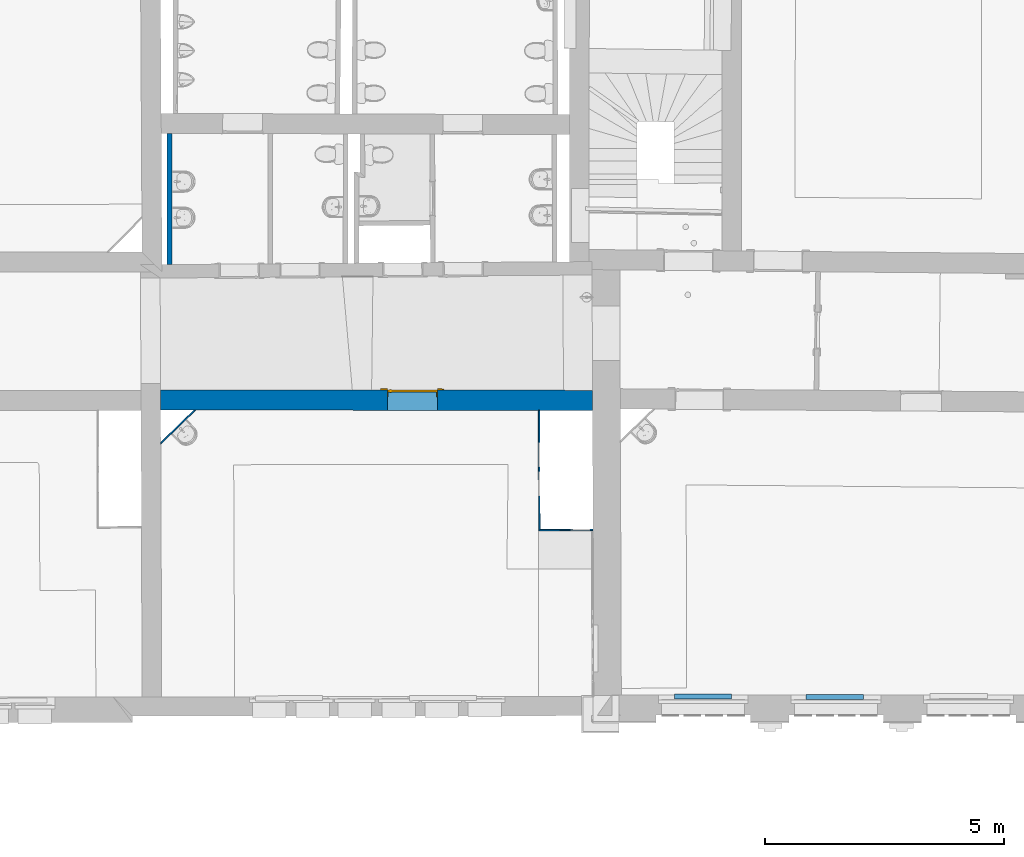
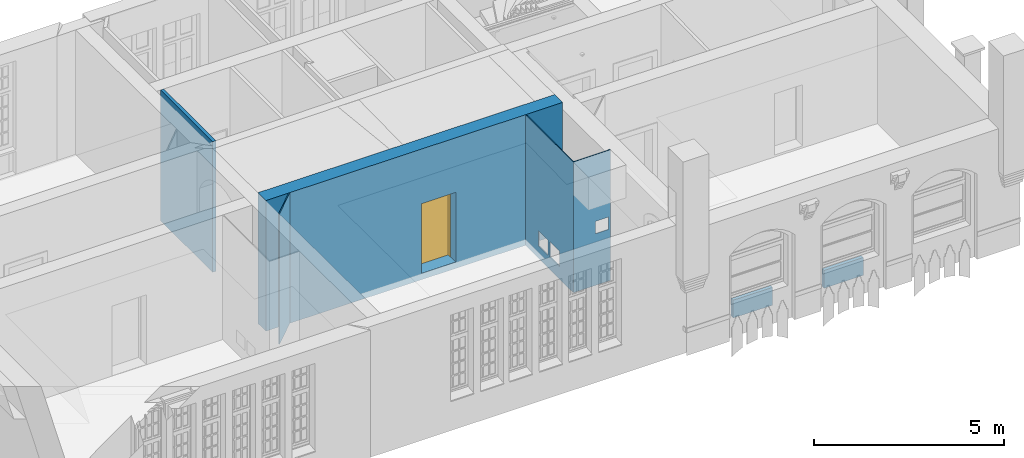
# One storey, part 27 of 90: 7 walls, 1 door, 4 openings.
"""IFC2X3 building model written with IfcOpenShell, lengths in metres."""

from ifc_helpers import new_model, entity, si_unit, converted_unit, derived_unit, money_unit, direction, frame, origin_with_axes, origin_2d_with_axis, place, context, subcontext, project, spatial, polyline, rectangle, outline, extrude, open_shell, faceted_brep, surface_model, source, transform, mapped, material, layer, layer_set, layer_usage, type_object, element, fill, save


model = new_model("IFC2X3")

# Units and contexts
model_context = context("Model", 3, precision=1e-05, world=origin_with_axes(), true_north=direction((0.0, 1.0)))
body_context = subcontext(model_context, "Body", "Model", "MODEL_VIEW")
ifc_project = project(units=[si_unit("LENGTHUNIT", "METRE"), si_unit("AREAUNIT", "SQUARE_METRE"), si_unit("VOLUMEUNIT", "CUBIC_METRE"), converted_unit("PLANEANGLEUNIT", "DEGREE", entity("IfcPlaneAngleMeasure", 0.0174532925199), si_unit("PLANEANGLEUNIT", "RADIAN"), dimensions=[0, 0, 0, 0, 0, 0, 0]), money_unit("EUR"), converted_unit("TIMEUNIT", "Year", entity("IfcTimeMeasure", 31556926.0), si_unit("TIMEUNIT", "SECOND"), dimensions=[0, 0, 1, 0, 0, 0, 0]), si_unit("MASSUNIT", "GRAM", prefix="KILO"), si_unit("THERMODYNAMICTEMPERATUREUNIT", "DEGREE_CELSIUS"), si_unit("LUMINOUSINTENSITYUNIT", "LUMEN"), si_unit("ENERGYUNIT", "JOULE", prefix="MEGA"), derived_unit("THERMALCONDUCTANCEUNIT", [(si_unit("POWERUNIT", "WATT"), 1), (si_unit("LENGTHUNIT", "METRE"), -1), (si_unit("THERMODYNAMICTEMPERATUREUNIT", "KELVIN"), -1)]), derived_unit("SPECIFICHEATCAPACITYUNIT", [(si_unit("ENERGYUNIT", "JOULE"), 1), (si_unit("MASSUNIT", "GRAM", prefix="KILO"), -1), (si_unit("THERMODYNAMICTEMPERATUREUNIT", "KELVIN"), -1)]), derived_unit("MASSDENSITYUNIT", [(si_unit("MASSUNIT", "GRAM", prefix="KILO"), 1), (si_unit("VOLUMEUNIT", "CUBIC_METRE"), -1)])], contexts=[model_context])

# Site, building, storey
site_placement = place(None, origin_with_axes())
site = spatial("IfcSite", under=ifc_project, at=site_placement, Name="Gelände", CompositionType="ELEMENT")
building_placement = place(site_placement, origin_with_axes())
building = spatial("IfcBuilding", under=site, at=building_placement, Name="Gebäude", CompositionType="ELEMENT")
storey_placement = place(building_placement, frame((0.0, 0.0, 3.7), z_axis=(0.0, 0.0, 1.0), x_axis=(1.0, 0.0, 0.0)))
storey = spatial("IfcBuildingStorey", under=building, at=storey_placement, Name="1.OBERGESCHOSS", CompositionType="ELEMENT", Elevation=3.7)

# Wall, opening, door
ifc_material_1 = material(Name="05_ALLGEMEIN - TRAGENDE BAUTEILE")
ifc_layer_1 = layer(ifc_material_1, 0.42, ventilated="UNKNOWN")
ifc_layer_set_1 = layer_set([ifc_layer_1], Name="05_ALLGEMEIN - TRAGENDE BAUTEILE 0.42")
ifc_layer_usage_1 = layer_usage(ifc_layer_set_1, "AXIS2", "POSITIVE", 0.0)
wall_type_1 = type_object("IfcWallType", Name="05_ALLGEMEIN - TRAGENDE BAUTEILE 420", PredefinedType="ELEMENTEDWALL")
wall_1_placement = place(storey_placement, frame((21.9675993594, 16.8118219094, -0.1), z_axis=(0.0, 0.0, 1.0), x_axis=(-0.9999998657, 0.00051826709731, 0.0)))
wall_1 = element("IfcWallStandardCase", 1, at=wall_1_placement, inside=storey, type_object=wall_type_1, material=ifc_layer_usage_1, Name="Wand-041", ObjectType="ELEMENTEDWALL", context=body_context, shape_type="SweptSolid", body=[
    extrude(outline(polyline([(0.0, 0.0), (9.02072101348, 0.0), (9.01890597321, 0.42), (-0.00167481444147, 0.42), (0.0, 0.0)])), origin_with_axes(), (0.0, 0.0, 1.0), 4.2),
])
opening_1_placement = place(wall_1_placement, frame((3.76149297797, 0.0, 0.206800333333), z_axis=(0.0, 0.0, 1.0), x_axis=(1.0, 0.0, 0.0)))
opening_1 = element("IfcOpeningElement", 2, at=opening_1_placement, cuts=wall_1, Name="Tür-022", context=body_context, shape_type="SweptSolid", body=[
    extrude(rectangle(XDim=1.03990335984, YDim=2.24001358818, at=origin_2d_with_axis()), frame((0.0, 0.42, 1.12000679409), z_axis=(0.0, -1.0, 0.0), x_axis=(-1.0, 0.0, 0.0)), (0.0, 0.0, 1.0), 1.26),
])
door_style = type_object("IfcDoorStyle", Name="Blockrahmentür 1-Fl 25", ConstructionType="NOTDEFINED", OperationType="SINGLE_SWING_RIGHT", ParameterTakesPrecedence=False, Sizeable=False)
shared_shape = source(origin_with_axes(), body_context, "Body", "SurfaceModel", [
    faceted_brep([(0.519951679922, -0.14, 0.0), (0.519951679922, -0.035, 0.0), (0.519951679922, -0.035, 2.24001358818), (0.519951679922, -0.14, 2.24001358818), (0.504951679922, -0.14, 0.0), (0.504951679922, -0.035, 0.0), (0.504951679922, -0.035, 2.22501358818), (0.1151, -0.035, 2.22501358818), (0.0001, -0.035, 2.22501358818), (-0.504951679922, -0.035, 2.22501358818), (-0.504951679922, -0.035, 0.0), (-0.519951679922, -0.035, 0.0), (-0.519951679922, -0.035, 2.24001358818), (-0.519951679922, -0.14, 2.24001358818), (-0.519951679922, -0.14, 0.0), (-0.504951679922, -0.14, 0.0), (-0.504951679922, -0.14, 2.22501358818), (0.0001, -0.14, 2.22501358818), (0.1151, -0.14, 2.22501358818), (0.504951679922, -0.14, 2.22501358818)], [[[0, 1, 2, 3]], [[4, 5, 1, 0]], [[1, 5, 6, 7, 8, 9, 10, 11, 12, 2]], [[3, 2, 12, 13]], [[0, 3, 13, 14, 15, 16, 17, 18, 19, 4]], [[19, 6, 5, 4]], [[18, 7, 6, 19]], [[17, 8, 7, 18]], [[16, 9, 8, 17]], [[15, 10, 9, 16]], [[14, 11, 10, 15]], [[13, 12, 11, 14]]]),
    surface_model("IfcShellBasedSurfaceModel", [(0.519951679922, -0.035, 0.0), (0.519951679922, 0.03, 0.0), (0.519951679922, 0.03, 2.24001358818), (0.519951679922, -0.035, 2.24001358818), (0.519951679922, -0.035, 2.24001358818), (0.519951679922, 0.03, 2.24001358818), (-0.519951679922, 0.03, 2.24001358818), (0.0151, 0.03, 2.24001358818), (0.1001, 0.03, 2.24001358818), (0.1001, -0.035, 2.24001358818), (0.0151, -0.035, 2.24001358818), (-0.519951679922, -0.035, 2.24001358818), (-0.519951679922, -0.035, 2.24001358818), (-0.519951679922, -0.035, 0.0), (-0.519951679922, 0.03, 0.0), (-0.519951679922, 0.03, 2.24001358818)], [open_shell([[[0, 1, 2, 3]], [[4, 5, 1, 0]], [[6, 7, 8, 2]], [[3, 2, 8, 9]], [[9, 10, 11, 4]], [[12, 6, 5, 4]], [[13, 14, 6, 12]], [[11, 15, 14, 13]], [[10, 7, 15, 11]], [[9, 8, 7, 10]]])]),
    faceted_brep([(0.664951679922, 0.0, 0.0), (0.664951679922, 0.03, 0.0), (0.664951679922, 0.03, 2.38501358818), (0.664951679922, 0.0, 2.38501358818), (0.519951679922, 0.0, 0.0), (0.519951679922, 0.03, 0.0), (0.519951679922, 0.03, 2.24001358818), (-0.519951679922, 0.03, 2.24001358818), (-0.519951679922, 0.03, 0.0), (-0.664951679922, 0.03, 0.0), (-0.664951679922, 0.03, 2.38501358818), (-0.664951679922, 0.0, 2.38501358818), (-0.664951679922, 0.0, 0.0), (-0.519951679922, 0.0, 0.0), (-0.519951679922, 0.0, 2.24001358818), (0.519951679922, 0.0, 2.24001358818)], [[[0, 1, 2, 3]], [[4, 5, 1, 0]], [[1, 5, 6, 7, 8, 9, 10, 2]], [[3, 2, 10, 11]], [[0, 3, 11, 12, 13, 14, 15, 4]], [[15, 6, 5, 4]], [[14, 7, 6, 15]], [[13, 8, 7, 14]], [[12, 9, 8, 13]], [[11, 10, 9, 12]]]),
    faceted_brep([(0.519951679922, 0.002, 0.0), (-0.519951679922, 0.002, 0.0), (-0.519951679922, 0.002, 2.24001358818), (0.519951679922, 0.002, 2.24001358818), (0.519951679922, -0.035, 0.0), (-0.519951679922, -0.035, 0.0), (-0.519951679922, -0.035, 2.24001358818), (0.519951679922, -0.035, 2.24001358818)], [[[0, 1, 2, 3]], [[1, 0, 4, 5]], [[2, 1, 5, 6]], [[3, 2, 6, 7]], [[0, 3, 7, 4]], [[5, 4, 7, 6]]]),
    faceted_brep([(-0.46465396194, -0.075, 1.05647213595), (-0.459951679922, -0.075, 1.058), (-0.459951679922, -0.055, 1.058), (-0.46465396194, -0.055, 1.05647213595), (-0.467560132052, -0.075, 1.05247213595), (-0.467560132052, -0.075, 1.04752786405), (-0.46465396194, -0.075, 1.04352786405), (-0.459951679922, -0.075, 1.042), (-0.455249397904, -0.075, 1.04352786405), (-0.452343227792, -0.075, 1.04752786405), (-0.452343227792, -0.075, 1.05247213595), (-0.455249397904, -0.075, 1.05647213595), (-0.455249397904, -0.055, 1.05647213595), (-0.459951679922, -0.053, 1.06), (-0.465829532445, -0.053, 1.05809016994), (-0.467560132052, -0.055, 1.05247213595), (-0.467560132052, -0.055, 1.04752786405), (-0.46465396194, -0.055, 1.04352786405), (-0.459951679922, -0.055, 1.042), (-0.455249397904, -0.055, 1.04352786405), (-0.452343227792, -0.055, 1.04752786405), (-0.452343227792, -0.055, 1.05247213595), (-0.454073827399, -0.053, 1.05809016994), (-0.459951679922, -0.045, 1.06), (-0.465829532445, -0.045, 1.05809016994), (-0.469462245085, -0.053, 1.05309016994), (-0.469462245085, -0.053, 1.04690983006), (-0.465829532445, -0.053, 1.04190983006), (-0.459951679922, -0.053, 1.04), (-0.454073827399, -0.053, 1.04190983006), (-0.450441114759, -0.053, 1.04690983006), (-0.450441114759, -0.053, 1.05309016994), (-0.454073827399, -0.045, 1.05809016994), (-0.450441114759, -0.045, 1.05309016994), (-0.450441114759, -0.045, 1.04690983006), (-0.454073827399, -0.045, 1.04190983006), (-0.459951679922, -0.045, 1.04), (-0.465829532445, -0.045, 1.04190983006), (-0.469462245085, -0.045, 1.04690983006), (-0.469462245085, -0.045, 1.05309016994)], [[[0, 1, 2, 3]], [[1, 0, 4, 5, 6, 7, 8, 9, 10, 11]], [[1, 11, 12, 2]], [[3, 2, 13, 14]], [[4, 0, 3, 15]], [[5, 4, 15, 16]], [[6, 5, 16, 17]], [[7, 6, 17, 18]], [[8, 7, 18, 19]], [[9, 8, 19, 20]], [[10, 9, 20, 21]], [[11, 10, 21, 12]], [[2, 12, 22, 13]], [[14, 13, 23, 24]], [[15, 3, 14, 25]], [[16, 15, 25, 26]], [[17, 16, 26, 27]], [[18, 17, 27, 28]], [[19, 18, 28, 29]], [[20, 19, 29, 30]], [[21, 20, 30, 31]], [[12, 21, 31, 22]], [[13, 22, 32, 23]], [[23, 32, 33, 34, 35, 36, 37, 38, 39, 24]], [[25, 14, 24, 39]], [[26, 25, 39, 38]], [[27, 26, 38, 37]], [[28, 27, 37, 36]], [[29, 28, 36, 35]], [[30, 29, 35, 34]], [[31, 30, 34, 33]], [[22, 31, 33, 32]]]),
    faceted_brep([(-0.447763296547, -0.045, 1.11759695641), (-0.455508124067, -0.045, 1.12195567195), (-0.464395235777, -0.045, 1.12195567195), (-0.472140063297, -0.045, 1.11759695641), (-0.476751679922, -0.045, 1.11), (-0.482451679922, -0.045, 1.11), (-0.482451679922, -0.045, 0.89), (-0.476751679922, -0.045, 0.89), (-0.472140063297, -0.045, 0.882403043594), (-0.464395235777, -0.045, 0.878044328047), (-0.455508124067, -0.045, 0.878044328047), (-0.447763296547, -0.045, 0.882403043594), (-0.443151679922, -0.045, 0.89), (-0.437451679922, -0.045, 0.89), (-0.437451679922, -0.045, 1.11), (-0.443151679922, -0.045, 1.11), (-0.459951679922, -0.045, 0.967425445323), (-0.454576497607, -0.045, 0.965143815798), (-0.452483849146, -0.045, 0.959692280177), (-0.454951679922, -0.045, 0.9544), (-0.454951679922, -0.045, 0.9375), (-0.456416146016, -0.045, 0.933964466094), (-0.459951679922, -0.045, 0.9325), (-0.463487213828, -0.045, 0.933964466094), (-0.464951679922, -0.045, 0.9375), (-0.464951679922, -0.045, 0.9544), (-0.467419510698, -0.045, 0.959692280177), (-0.465326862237, -0.045, 0.965143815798), (-0.447763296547, -0.035, 1.11759695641), (-0.455508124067, -0.035, 1.12195567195), (-0.464395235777, -0.035, 1.12195567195), (-0.472140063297, -0.035, 1.11759695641), (-0.476751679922, -0.035, 1.11), (-0.482451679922, -0.035, 1.11), (-0.482451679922, -0.035, 0.89), (-0.476751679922, -0.035, 0.89), (-0.472140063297, -0.035, 0.882403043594), (-0.464395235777, -0.035, 0.878044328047), (-0.455508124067, -0.035, 0.878044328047), (-0.447763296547, -0.035, 0.882403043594), (-0.443151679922, -0.035, 0.89), (-0.437451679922, -0.035, 0.89), (-0.437451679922, -0.035, 1.11), (-0.443151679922, -0.035, 1.11), (-0.459951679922, -0.035, 0.967425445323), (-0.454576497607, -0.035, 0.965143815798), (-0.452483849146, -0.035, 0.959692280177), (-0.454951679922, -0.035, 0.9544), (-0.454951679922, -0.035, 0.9375), (-0.456416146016, -0.035, 0.933964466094), (-0.459951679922, -0.035, 0.9325), (-0.463487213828, -0.035, 0.933964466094), (-0.464951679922, -0.035, 0.9375), (-0.464951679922, -0.035, 0.9544), (-0.467419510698, -0.035, 0.959692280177), (-0.465326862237, -0.035, 0.965143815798)], [[[0, 1, 2, 3, 4, 5, 6, 7, 8, 9, 10, 11, 12, 13, 14, 15], [16, 17, 18, 19, 20, 21, 22, 23, 24, 25, 26, 27]], [[1, 0, 28, 29]], [[2, 1, 29, 30]], [[3, 2, 30, 31]], [[4, 3, 31, 32]], [[5, 4, 32, 33]], [[6, 5, 33, 34]], [[7, 6, 34, 35]], [[8, 7, 35, 36]], [[9, 8, 36, 37]], [[10, 9, 37, 38]], [[11, 10, 38, 39]], [[12, 11, 39, 40]], [[13, 12, 40, 41]], [[14, 13, 41, 42]], [[15, 14, 42, 43]], [[0, 15, 43, 28]], [[17, 16, 44, 45]], [[18, 17, 45, 46]], [[19, 18, 46, 47]], [[19, 47, 48, 20]], [[20, 48, 49, 21]], [[21, 49, 50, 22]], [[22, 50, 51, 23]], [[23, 51, 52, 24]], [[53, 25, 24, 52]], [[26, 25, 53, 54]], [[27, 26, 54, 55]], [[16, 27, 55, 44]], [[40, 39, 38, 37, 36, 35, 34, 33, 32, 31, 30, 29, 28, 43, 42, 41], [54, 53, 52, 51, 50, 49, 48, 47, 46, 45, 44, 55]]]),
    faceted_brep([(-0.345698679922, -0.075, 1.057158), (-0.345698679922, -0.09, 1.057158), (-0.345697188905, -0.09, 1.05719388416), (-0.345697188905, -0.075, 1.05719388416), (-0.372726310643, -0.075, 1.06432652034), (-0.372726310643, -0.09, 1.06432652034), (-0.400554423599, -0.09, 1.06706086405), (-0.428460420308, -0.09, 1.06529002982), (-0.455719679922, -0.09, 1.05906), (-0.462122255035, -0.09, 1.05976125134), (-0.467624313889, -0.09, 1.05641280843), (-0.469943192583, -0.09, 1.05040385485), (-0.468116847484, -0.09, 1.04422735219), (-0.462902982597, -0.09, 1.04044577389), (-0.456464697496, -0.09, 1.04062800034), (-0.451473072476, -0.09, 1.04469843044), (-0.451493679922, -0.09, 1.044666), (-0.426204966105, -0.09, 1.05019878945), (-0.400362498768, -0.09, 1.05171460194), (-0.374600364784, -0.09, 1.04917624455), (-0.349550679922, -0.09, 1.042646), (-0.344007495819, -0.09, 1.04356849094), (-0.340645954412, -0.09, 1.04807159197), (-0.341337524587, -0.09, 1.05364829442), (-0.341337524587, -0.075, 1.05364829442), (-0.340645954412, -0.075, 1.04807159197), (-0.344007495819, -0.075, 1.04356849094), (-0.349550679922, -0.075, 1.042646), (-0.374600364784, -0.075, 1.04917624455), (-0.400362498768, -0.075, 1.05171460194), (-0.426204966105, -0.075, 1.05019878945), (-0.451493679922, -0.075, 1.044666), (-0.451473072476, -0.075, 1.04469843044), (-0.456464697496, -0.075, 1.04062800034), (-0.462902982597, -0.075, 1.04044577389), (-0.468116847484, -0.075, 1.04422735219), (-0.469943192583, -0.075, 1.05040385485), (-0.467624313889, -0.075, 1.05641280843), (-0.462122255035, -0.075, 1.05976125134), (-0.455719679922, -0.075, 1.05906), (-0.428460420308, -0.075, 1.06529002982), (-0.400554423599, -0.075, 1.06706086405)], [[[0, 1, 2, 3]], [[4, 5, 1, 0]], [[1, 5, 6, 7, 8, 9, 10, 11, 12, 13, 14, 15, 16, 17, 18, 19, 20, 21, 22, 23, 2]], [[3, 2, 23, 24]], [[0, 3, 24, 25, 26, 27, 28, 29, 30, 31, 32, 33, 34, 35, 36, 37, 38, 39, 40, 41, 4]], [[41, 6, 5, 4]], [[40, 7, 6, 41]], [[39, 8, 7, 40]], [[38, 9, 8, 39]], [[37, 10, 9, 38]], [[36, 11, 10, 37]], [[35, 12, 11, 36]], [[34, 13, 12, 35]], [[33, 14, 13, 34]], [[32, 15, 14, 33]], [[31, 16, 15, 32]], [[30, 17, 16, 31]], [[29, 18, 17, 30]], [[28, 19, 18, 29]], [[27, 20, 19, 28]], [[26, 21, 20, 27]], [[25, 22, 21, 26]], [[24, 23, 22, 25]]]),
    faceted_brep([(-0.46465396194, 0.042, 1.05647213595), (-0.46465396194, 0.022, 1.05647213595), (-0.459951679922, 0.022, 1.058), (-0.459951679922, 0.042, 1.058), (-0.467560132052, 0.042, 1.05247213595), (-0.467560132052, 0.022, 1.05247213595), (-0.465829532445, 0.02, 1.05809016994), (-0.459951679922, 0.02, 1.06), (-0.455249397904, 0.022, 1.05647213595), (-0.455249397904, 0.042, 1.05647213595), (-0.452343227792, 0.042, 1.05247213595), (-0.452343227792, 0.042, 1.04752786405), (-0.455249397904, 0.042, 1.04352786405), (-0.459951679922, 0.042, 1.042), (-0.46465396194, 0.042, 1.04352786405), (-0.467560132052, 0.042, 1.04752786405), (-0.467560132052, 0.022, 1.04752786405), (-0.469462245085, 0.02, 1.05309016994), (-0.465829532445, 0.012, 1.05809016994), (-0.459951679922, 0.012, 1.06), (-0.454073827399, 0.02, 1.05809016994), (-0.452343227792, 0.022, 1.05247213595), (-0.452343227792, 0.022, 1.04752786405), (-0.455249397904, 0.022, 1.04352786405), (-0.459951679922, 0.022, 1.042), (-0.46465396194, 0.022, 1.04352786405), (-0.469462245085, 0.02, 1.04690983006), (-0.469462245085, 0.012, 1.05309016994), (-0.469462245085, 0.012, 1.04690983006), (-0.465829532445, 0.012, 1.04190983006), (-0.459951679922, 0.012, 1.04), (-0.454073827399, 0.012, 1.04190983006), (-0.450441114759, 0.012, 1.04690983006), (-0.450441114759, 0.012, 1.05309016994), (-0.454073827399, 0.012, 1.05809016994), (-0.450441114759, 0.02, 1.05309016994), (-0.450441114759, 0.02, 1.04690983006), (-0.454073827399, 0.02, 1.04190983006), (-0.459951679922, 0.02, 1.04), (-0.465829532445, 0.02, 1.04190983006)], [[[0, 1, 2, 3]], [[4, 5, 1, 0]], [[1, 6, 7, 2]], [[3, 2, 8, 9]], [[3, 9, 10, 11, 12, 13, 14, 15, 4, 0]], [[15, 16, 5, 4]], [[5, 17, 6, 1]], [[6, 18, 19, 7]], [[2, 7, 20, 8]], [[9, 8, 21, 10]], [[10, 21, 22, 11]], [[11, 22, 23, 12]], [[12, 23, 24, 13]], [[13, 24, 25, 14]], [[14, 25, 16, 15]], [[16, 26, 17, 5]], [[17, 27, 18, 6]], [[19, 18, 27, 28, 29, 30, 31, 32, 33, 34]], [[7, 19, 34, 20]], [[8, 20, 35, 21]], [[21, 35, 36, 22]], [[22, 36, 37, 23]], [[23, 37, 38, 24]], [[24, 38, 39, 25]], [[25, 39, 26, 16]], [[26, 28, 27, 17]], [[39, 29, 28, 26]], [[38, 30, 29, 39]], [[37, 31, 30, 38]], [[36, 32, 31, 37]], [[35, 33, 32, 36]], [[20, 34, 33, 35]]]),
    faceted_brep([(-0.447763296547, 0.002, 1.11759695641), (-0.455508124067, 0.002, 1.12195567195), (-0.464395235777, 0.002, 1.12195567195), (-0.472140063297, 0.002, 1.11759695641), (-0.476751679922, 0.002, 1.11), (-0.482451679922, 0.002, 1.11), (-0.482451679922, 0.002, 0.89), (-0.476751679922, 0.002, 0.89), (-0.472140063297, 0.002, 0.882403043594), (-0.464395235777, 0.002, 0.878044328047), (-0.455508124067, 0.002, 0.878044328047), (-0.447763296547, 0.002, 0.882403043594), (-0.443151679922, 0.002, 0.89), (-0.437451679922, 0.002, 0.89), (-0.437451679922, 0.002, 1.11), (-0.443151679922, 0.002, 1.11), (-0.459951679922, 0.002, 0.967425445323), (-0.454576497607, 0.002, 0.965143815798), (-0.452483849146, 0.002, 0.959692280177), (-0.454951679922, 0.002, 0.9544), (-0.454951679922, 0.002, 0.9375), (-0.456416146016, 0.002, 0.933964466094), (-0.459951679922, 0.002, 0.9325), (-0.463487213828, 0.002, 0.933964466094), (-0.464951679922, 0.002, 0.9375), (-0.464951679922, 0.002, 0.9544), (-0.467419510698, 0.002, 0.959692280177), (-0.465326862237, 0.002, 0.965143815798), (-0.455508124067, 0.012, 1.12195567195), (-0.447763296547, 0.012, 1.11759695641), (-0.464395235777, 0.012, 1.12195567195), (-0.472140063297, 0.012, 1.11759695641), (-0.476751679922, 0.012, 1.11), (-0.482451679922, 0.012, 1.11), (-0.482451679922, 0.012, 0.89), (-0.476751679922, 0.012, 0.89), (-0.472140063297, 0.012, 0.882403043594), (-0.464395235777, 0.012, 0.878044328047), (-0.455508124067, 0.012, 0.878044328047), (-0.447763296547, 0.012, 0.882403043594), (-0.443151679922, 0.012, 0.89), (-0.437451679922, 0.012, 0.89), (-0.437451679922, 0.012, 1.11), (-0.443151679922, 0.012, 1.11), (-0.459951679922, 0.012, 0.967425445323), (-0.454576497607, 0.012, 0.965143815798), (-0.452483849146, 0.012, 0.959692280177), (-0.454951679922, 0.012, 0.9544), (-0.454951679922, 0.012, 0.9375), (-0.456416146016, 0.012, 0.933964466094), (-0.459951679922, 0.012, 0.9325), (-0.463487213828, 0.012, 0.933964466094), (-0.464951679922, 0.012, 0.9375), (-0.464951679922, 0.012, 0.9544), (-0.467419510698, 0.012, 0.959692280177), (-0.465326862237, 0.012, 0.965143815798)], [[[0, 1, 2, 3, 4, 5, 6, 7, 8, 9, 10, 11, 12, 13, 14, 15], [16, 17, 18, 19, 20, 21, 22, 23, 24, 25, 26, 27]], [[28, 1, 0, 29]], [[30, 2, 1, 28]], [[31, 3, 2, 30]], [[32, 4, 3, 31]], [[33, 5, 4, 32]], [[34, 6, 5, 33]], [[35, 7, 6, 34]], [[36, 8, 7, 35]], [[37, 9, 8, 36]], [[38, 10, 9, 37]], [[39, 11, 10, 38]], [[40, 12, 11, 39]], [[41, 13, 12, 40]], [[42, 14, 13, 41]], [[43, 15, 14, 42]], [[29, 0, 15, 43]], [[17, 16, 44, 45]], [[18, 17, 45, 46]], [[19, 18, 46, 47]], [[19, 47, 48, 20]], [[20, 48, 49, 21]], [[21, 49, 50, 22]], [[22, 50, 51, 23]], [[23, 51, 52, 24]], [[53, 25, 24, 52]], [[26, 25, 53, 54]], [[27, 26, 54, 55]], [[16, 27, 55, 44]], [[40, 39, 38, 37, 36, 35, 34, 33, 32, 31, 30, 28, 29, 43, 42, 41], [54, 53, 52, 51, 50, 49, 48, 47, 46, 45, 44, 55]]]),
    faceted_brep([(-0.345698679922, 0.042, 1.057158), (-0.345697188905, 0.042, 1.05719388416), (-0.345697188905, 0.057, 1.05719388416), (-0.345698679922, 0.057, 1.057158), (-0.372726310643, 0.042, 1.06432652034), (-0.400554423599, 0.042, 1.06706086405), (-0.428460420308, 0.042, 1.06529002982), (-0.455719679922, 0.042, 1.05906), (-0.462122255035, 0.042, 1.05976125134), (-0.467624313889, 0.042, 1.05641280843), (-0.469943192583, 0.042, 1.05040385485), (-0.468116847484, 0.042, 1.04422735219), (-0.462902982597, 0.042, 1.04044577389), (-0.456464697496, 0.042, 1.04062800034), (-0.451473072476, 0.042, 1.04469843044), (-0.451493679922, 0.042, 1.044666), (-0.426204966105, 0.042, 1.05019878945), (-0.400362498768, 0.042, 1.05171460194), (-0.374600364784, 0.042, 1.04917624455), (-0.349550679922, 0.042, 1.042646), (-0.344007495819, 0.042, 1.04356849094), (-0.340645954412, 0.042, 1.04807159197), (-0.341337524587, 0.042, 1.05364829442), (-0.341337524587, 0.057, 1.05364829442), (-0.340645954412, 0.057, 1.04807159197), (-0.344007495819, 0.057, 1.04356849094), (-0.349550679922, 0.057, 1.042646), (-0.374600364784, 0.057, 1.04917624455), (-0.400362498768, 0.057, 1.05171460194), (-0.426204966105, 0.057, 1.05019878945), (-0.451493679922, 0.057, 1.044666), (-0.451473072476, 0.057, 1.04469843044), (-0.456464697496, 0.057, 1.04062800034), (-0.462902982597, 0.057, 1.04044577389), (-0.468116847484, 0.057, 1.04422735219), (-0.469943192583, 0.057, 1.05040385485), (-0.467624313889, 0.057, 1.05641280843), (-0.462122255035, 0.057, 1.05976125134), (-0.455719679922, 0.057, 1.05906), (-0.428460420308, 0.057, 1.06529002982), (-0.400554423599, 0.057, 1.06706086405), (-0.372726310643, 0.057, 1.06432652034)], [[[0, 1, 2, 3]], [[0, 4, 5, 6, 7, 8, 9, 10, 11, 12, 13, 14, 15, 16, 17, 18, 19, 20, 21, 22, 1]], [[1, 22, 23, 2]], [[3, 2, 23, 24, 25, 26, 27, 28, 29, 30, 31, 32, 33, 34, 35, 36, 37, 38, 39, 40, 41]], [[4, 0, 3, 41]], [[5, 4, 41, 40]], [[6, 5, 40, 39]], [[7, 6, 39, 38]], [[8, 7, 38, 37]], [[9, 8, 37, 36]], [[10, 9, 36, 35]], [[11, 10, 35, 34]], [[12, 11, 34, 33]], [[13, 12, 33, 32]], [[14, 13, 32, 31]], [[15, 14, 31, 30]], [[16, 15, 30, 29]], [[17, 16, 29, 28]], [[18, 17, 28, 27]], [[19, 18, 27, 26]], [[20, 19, 26, 25]], [[21, 20, 25, 24]], [[22, 21, 24, 23]]]),
])
door_placement = place(opening_1_placement, frame((0.504951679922, 0.0, 0.0), z_axis=(0.0, 0.0, 1.0), x_axis=(-1.0, 0.0, 0.0)))
door = element("IfcDoor", 3, at=door_placement, inside=storey, type_object=door_style, Name="Tür-022", ObjectType="NOTDEFINED", OverallHeight=2.24001, OverallWidth=1.0399, context=body_context, shape_type="MappedRepresentation", body=[
    mapped(shared_shape, transform((0.504951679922, 0.0, 0.0))),
])
fill(opening_1, door)

# Wall
ifc_material_2 = material(Name="43_Gipskarton")
ifc_layer_2 = layer(ifc_material_2, 0.03, ventilated="UNKNOWN")
ifc_layer_set_2 = layer_set([ifc_layer_2], Name="43_Gipskarton 0.03")
ifc_layer_usage_2 = layer_usage(ifc_layer_set_2, "AXIS2", "NEGATIVE", 0.0)
wall_type_2 = type_object("IfcWallType", Name="43_Gipskarton 30", PredefinedType="ELEMENTEDWALL")
wall_2_placement = place(storey_placement, frame((14.1069495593, 16.8158958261, -0.1), z_axis=(0.0, 0.0, 1.0), x_axis=(-0.714712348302, -0.699418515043, 0.0)))
element("IfcWallStandardCase", 4, at=wall_2_placement, inside=storey, type_object=wall_type_2, material=ifc_layer_usage_2, Name="Wand-041", ObjectType="ELEMENTEDWALL", context=body_context, shape_type="SweptSolid", body=[
    extrude(outline(polyline([(0.630805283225, -0.03), (1.58797117, -0.03), (1.61710667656, 0.0), (0.6001810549, 0.0), (0.630805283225, -0.03)])), origin_with_axes(), (0.0, 0.0, 1.0), 4.2),
])

# Wall, openings
ifc_layer_usage_3 = layer_usage(ifc_layer_set_2, "AXIS2", "NEGATIVE", 0.03)
wall_3_placement = place(storey_placement, frame((20.8365510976, 16.8124080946, -0.1), z_axis=(0.0, 0.0, 1.0), x_axis=(0.00186923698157, -0.999998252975, 0.0)))
wall_3 = element("IfcWallStandardCase", 5, at=wall_3_placement, inside=storey, type_object=wall_type_2, material=ifc_layer_usage_3, Name="Wand-041", ObjectType="ELEMENTEDWALL", context=body_context, shape_type="SweptSolid", body=[
    extrude(outline(polyline([(0.420001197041, 0.0), (2.93682733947, 0.0), (2.90673776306, 0.03), (0.420072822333, 0.03), (0.420001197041, 0.0)])), origin_with_axes(), (0.0, 0.0, 1.0), 4.2),
])
opening_2_placement = place(wall_3_placement, frame((1.34966730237, 0.0, 0.4028385), z_axis=(0.0, 0.0, 1.0), x_axis=(1.0, 0.0, 0.0)))
element("IfcOpeningElement", 6, at=opening_2_placement, cuts=wall_3, Name="Tür-022", context=body_context, shape_type="SweptSolid", body=[
    extrude(rectangle(XDim=0.488492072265, YDim=0.482893, at=origin_2d_with_axis()), frame((0.0, 0.03, 0.2414465), z_axis=(0.0, -1.0, 0.0), x_axis=(-1.0, 0.0, 0.0)), (0.0, 0.0, 1.0), 0.09),
])
opening_3_placement = place(wall_3_placement, frame((1.94978980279, 0.0, 0.4049055), z_axis=(0.0, 0.0, 1.0), x_axis=(1.0, 0.0, 0.0)))
element("IfcOpeningElement", 7, at=opening_3_placement, cuts=wall_3, Name="Tür-022", context=body_context, shape_type="SweptSolid", body=[
    extrude(rectangle(XDim=0.492795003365, YDim=0.489548, at=origin_2d_with_axis()), frame((0.0, -0.03, 0.244774), z_axis=(0.0, -1.0, 0.0), x_axis=(1.0, 0.0, 0.0)), (0.0, 0.0, -1.0), 0.09),
])

# Wall, opening
ifc_layer_usage_4 = layer_usage(ifc_layer_set_2, "AXIS2", "NEGATIVE", 0.03)
wall_4_placement = place(storey_placement, frame((20.8420407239, 13.8755858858, -0.1), z_axis=(0.0, 0.0, 1.0), x_axis=(0.999988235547, 0.00485064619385, 0.0)))
wall_4 = element("IfcWallStandardCase", 8, at=wall_4_placement, inside=storey, type_object=wall_type_2, material=ifc_layer_usage_4, Name="Wand-042", ObjectType="ELEMENTEDWALL", context=body_context, shape_type="SweptSolid", body=[
    extrude(outline(polyline([(0.0, 0.0), (1.13573979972, 0.0), (1.13578123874, 0.03), (0.0300895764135, 0.03), (0.0, 0.0)])), origin_with_axes(), (0.0, 0.0, 1.0), 4.2),
])
opening_4_placement = place(wall_4_placement, frame((0.868938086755, 0.0, 1.6591875), z_axis=(0.0, 0.0, 1.0), x_axis=(1.0, 0.0, 0.0)))
element("IfcOpeningElement", 9, at=opening_4_placement, cuts=wall_4, Name="Tür-022", context=body_context, shape_type="SweptSolid", body=[
    extrude(rectangle(XDim=0.393651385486, YDim=0.396233, at=origin_2d_with_axis()), frame((0.0, -0.03, 0.1981165), z_axis=(0.0, 1.0, 0.0), x_axis=(1.0, 0.0, 0.0)), (0.0, 0.0, 1.0), 0.09),
])

# Walls
ifc_material_3 = material(Name="01_ALLGEMEIN - BAUTEIL")
ifc_layer_3 = layer(ifc_material_3, 0.105, ventilated="UNKNOWN")
ifc_layer_set_3 = layer_set([ifc_layer_3], Name="01_ALLGEMEIN - BAUTEIL 0.105")
ifc_layer_usage_5 = layer_usage(ifc_layer_set_3, "AXIS2", "NEGATIVE", 0.105)
wall_type_3 = type_object("IfcWallType", Name="01_ALLGEMEIN - BAUTEIL 105", PredefinedType="ELEMENTEDWALL")
wall_5_placement = place(storey_placement, frame((24.8706149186, 10.4639752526, 0.225519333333), z_axis=(0.0, 0.0, 1.0), x_axis=(-0.999973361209, 0.0072991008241, 0.0)))
element("IfcWallStandardCase", 10, at=wall_5_placement, inside=storey, type_object=wall_type_3, material=ifc_layer_usage_5, Name="Wand-035", ObjectType="ELEMENTEDWALL", context=body_context, shape_type="SweptSolid", body=[
    extrude(outline(polyline([(0.0, 0.0), (1.19440574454, 0.0), (1.19440574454, 0.105), (0.0, 0.105), (0.0, 0.0)])), origin_with_axes(), (0.0, 0.0, 1.0), 0.572068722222),
])
ifc_layer_usage_6 = layer_usage(ifc_layer_set_3, "AXIS2", "NEGATIVE", 0.0)
wall_6_placement = place(storey_placement, frame((26.4289942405, 10.4549826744, 0.225519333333), z_axis=(0.0, 0.0, 1.0), x_axis=(0.999997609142, 0.00218671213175, 0.0)))
element("IfcWallStandardCase", 11, at=wall_6_placement, inside=storey, type_object=wall_type_3, material=ifc_layer_usage_6, Name="Wand-036", ObjectType="ELEMENTEDWALL", context=body_context, shape_type="SweptSolid", body=[
    extrude(outline(polyline([(0.0, -0.105), (1.19708234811, -0.105), (1.19708234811, 0.0), (0.0, 0.0), (0.0, -0.105)])), origin_with_axes(), (0.0, 0.0, 1.0), 0.572068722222),
])
ifc_layer_4 = layer(ifc_material_2, 0.1, ventilated="UNKNOWN")
ifc_layer_set_4 = layer_set([ifc_layer_4], Name="43_Gipskarton 0.1")
ifc_layer_usage_7 = layer_usage(ifc_layer_set_4, "AXIS2", "NEGATIVE", 0.1)
wall_type_4 = type_object("IfcWallType", Name="43_Gipskarton 100", PredefinedType="ELEMENTEDWALL")
wall_7_placement = place(storey_placement, frame((13.1828854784, 19.1580409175, -0.1), z_axis=(0.0, 0.0, 1.0), x_axis=(0.000915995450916, 0.999999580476, 0.0)))
element("IfcWallStandardCase", 12, at=wall_7_placement, inside=storey, type_object=wall_type_4, material=ifc_layer_usage_7, Name="Wand-040", ObjectType="ELEMENTEDWALL", context=body_context, shape_type="SweptSolid", body=[
    extrude(outline(polyline([(0.280008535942, 0.0), (3.02075407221, 0.0), (3.02097026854, 0.1), (0.279227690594, 0.1), (0.280008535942, 0.0)])), origin_with_axes(), (0.0, 0.0, 1.0), 4.2),
])

save(model, "model.ifc")
